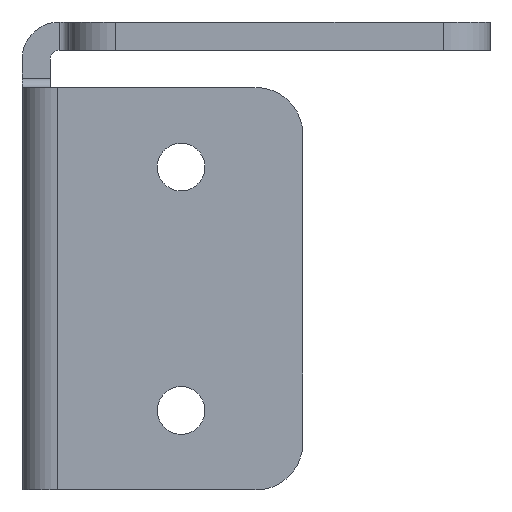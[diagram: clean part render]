
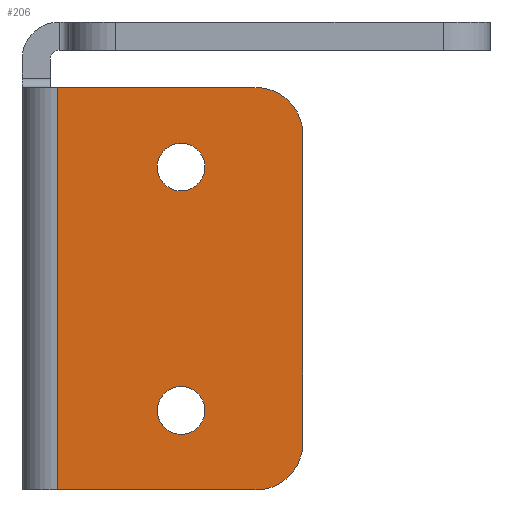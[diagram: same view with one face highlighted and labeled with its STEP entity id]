
A CAD part, left-side view. The second image highlights one B-rep face of the part: STEP entity #206.
In plain terms, the highlighted planar face has unit normal (-1, 0, 0).
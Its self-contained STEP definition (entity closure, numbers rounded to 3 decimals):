
#206=ADVANCED_FACE('',(#618,#620,#622),#624,.T.);
#618=FACE_BOUND('',#619,.T.);
#619=EDGE_LOOP('',(#967,#968,#969,#970,#971,#972));
#620=FACE_BOUND('',#621,.T.);
#621=EDGE_LOOP('',(#973));
#622=FACE_BOUND('',#623,.T.);
#623=EDGE_LOOP('',(#974));
#624=PLANE('',#625);
#625=AXIS2_PLACEMENT_3D('',#626,#627,#628);
#626=CARTESIAN_POINT('',(-183.8,184.342,3.456));
#627=DIRECTION('',(-1.,0.,0.));
#628=DIRECTION('',(0.,-1.,0.));
#967=ORIENTED_EDGE('',*,*,#1178,.F.);
#968=ORIENTED_EDGE('',*,*,#1179,.T.);
#969=ORIENTED_EDGE('',*,*,#1180,.F.);
#970=ORIENTED_EDGE('',*,*,#1181,.T.);
#971=ORIENTED_EDGE('',*,*,#1155,.T.);
#972=ORIENTED_EDGE('',*,*,#1182,.T.);
#973=ORIENTED_EDGE('',*,*,#1183,.T.);
#974=ORIENTED_EDGE('',*,*,#1184,.T.);
#1155=EDGE_CURVE('',#1294,#1313,#1314,.T.);
#1178=EDGE_CURVE('',#1353,#1354,#1355,.F.);
#1179=EDGE_CURVE('',#1353,#1356,#1357,.T.);
#1180=EDGE_CURVE('',#1358,#1356,#1359,.F.);
#1181=EDGE_CURVE('',#1358,#1294,#1360,.T.);
#1182=EDGE_CURVE('',#1313,#1354,#1361,.T.);
#1183=EDGE_CURVE('',#1362,#1362,#1363,.F.);
#1184=EDGE_CURVE('',#1364,#1364,#1365,.F.);
#1294=VERTEX_POINT('',#1587);
#1313=VERTEX_POINT('',#1639);
#1314=LINE('',#1640,#1641);
#1353=VERTEX_POINT('',#1737);
#1354=VERTEX_POINT('',#1738);
#1355=CIRCLE('',#1739,5.);
#1356=VERTEX_POINT('',#1743);
#1357=LINE('',#1744,#1745);
#1358=VERTEX_POINT('',#1747);
#1359=CIRCLE('',#1748,5.);
#1360=LINE('',#1752,#1753);
#1361=LINE('',#1755,#1756);
#1362=VERTEX_POINT('',#1758);
#1363=CIRCLE('',#1759,2.55);
#1364=VERTEX_POINT('',#1763);
#1365=CIRCLE('',#1764,2.55);
#1587=CARTESIAN_POINT('',(-183.8,1.2,-4.));
#1639=CARTESIAN_POINT('',(-183.8,1.2,-47.));
#1640=CARTESIAN_POINT('',(-183.8,1.2,-4.));
#1641=VECTOR('',#1642,1.);
#1642=DIRECTION('',(0.,0.,-1.));
#1737=CARTESIAN_POINT('',(-183.8,-25.,-42.));
#1738=CARTESIAN_POINT('',(-183.8,-20.,-47.));
#1739=AXIS2_PLACEMENT_3D('',#1740,#1741,#1742);
#1740=CARTESIAN_POINT('',(-183.8,-20.,-42.));
#1741=DIRECTION('',(-1.,0.,0.));
#1742=DIRECTION('',(0.,0.,-1.));
#1743=CARTESIAN_POINT('',(-183.8,-25.,-9.));
#1744=CARTESIAN_POINT('',(-183.8,-25.,-42.));
#1745=VECTOR('',#1746,1.);
#1746=DIRECTION('',(0.,0.,1.));
#1747=CARTESIAN_POINT('',(-183.8,-20.,-4.));
#1748=AXIS2_PLACEMENT_3D('',#1749,#1750,#1751);
#1749=CARTESIAN_POINT('',(-183.8,-20.,-9.));
#1750=DIRECTION('',(-1.,0.,0.));
#1751=DIRECTION('',(0.,-1.,0.));
#1752=CARTESIAN_POINT('',(-183.8,-20.,-4.));
#1753=VECTOR('',#1754,1.);
#1754=DIRECTION('',(0.,1.,0.));
#1755=CARTESIAN_POINT('',(-183.8,1.2,-47.));
#1756=VECTOR('',#1757,1.);
#1757=DIRECTION('',(0.,-1.,0.));
#1758=CARTESIAN_POINT('',(-183.8,-12.,-15.05));
#1759=AXIS2_PLACEMENT_3D('',#1760,#1761,#1762);
#1760=CARTESIAN_POINT('',(-183.8,-12.,-12.5));
#1761=DIRECTION('',(-1.,0.,-0.));
#1762=DIRECTION('',(0.,0.,-1.));
#1763=CARTESIAN_POINT('',(-183.8,-12.,-41.05));
#1764=AXIS2_PLACEMENT_3D('',#1765,#1766,#1767);
#1765=CARTESIAN_POINT('',(-183.8,-12.,-38.5));
#1766=DIRECTION('',(-1.,0.,-0.));
#1767=DIRECTION('',(0.,0.,-1.));
